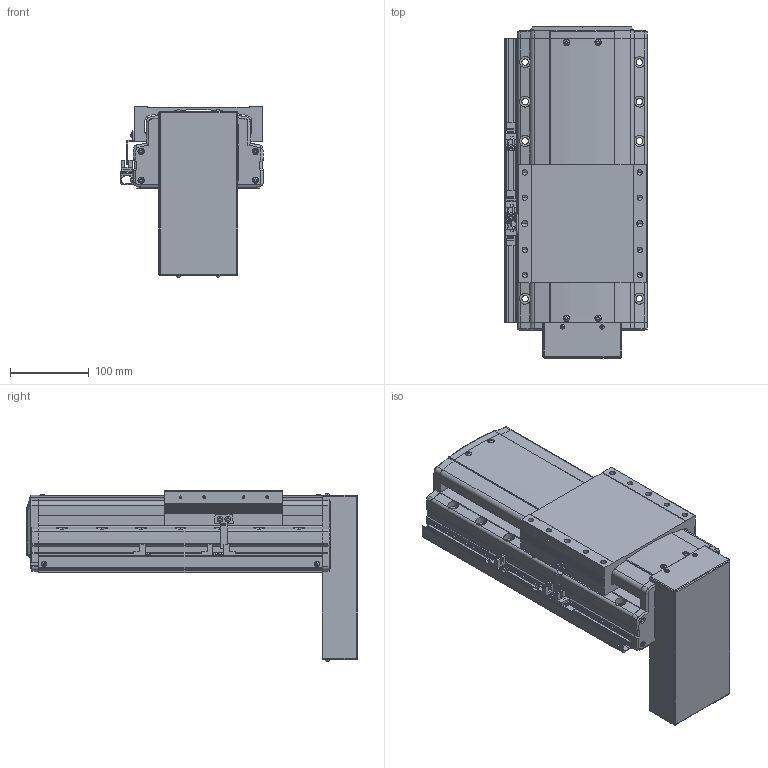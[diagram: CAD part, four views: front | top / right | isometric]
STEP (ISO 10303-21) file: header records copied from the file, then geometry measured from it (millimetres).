
FILE_DESCRIPTION(('STEP AP214'),'1');
FILE_NAME('Z:/Web/3D/PSA165/STP/PSA165-100 (3D)/PSA165ㅁㅁ-100PB+3SL.stp','2014-06-23T06:31:27',(' '),(' '),'Spatial InterOp 3D',' ',' ');
FILE_SCHEMA(('automotive_design'));
Length unit declared in the file: millimetre
Products named in the file (47): 스크루 : Round - M4.0 x 12.0; RRCV-PA160; BASE; 스크루 : Round - M4.0 x 10.0; RN15; Screw 20; SLIDE; FRCV; MTPL CV- PB; 스크루 : Round - M3.0 x 6.0; 1; 2; M3.0 x 6.0; SRL-16x17-360L; SGD-SAN150; EE-SX674; SBK-SX674-352; BHCS M4.0 x 10.0
Bounding box: 181 x 420.8 x 215.96 mm (x, y, z)
Volume: 6400529.5 mm3; surface area: 583314.4 mm2
Topology: 47 solids, 47 shells, 2536 faces, 6732 edges, 4334 vertices
Faces by surface type: plane 1509, cylinder 704, cone 210, sphere 72, bspline 25, torus 16
Entity records: 102259 total; most frequent: CARTESIAN_POINT 17291, DIRECTION 13515, ORIENTED_EDGE 13228, EDGE_CURVE 6614, LINE 4519, VECTOR 4519, AXIS2_PLACEMENT_3D 4498, VERTEX_POINT 4334
